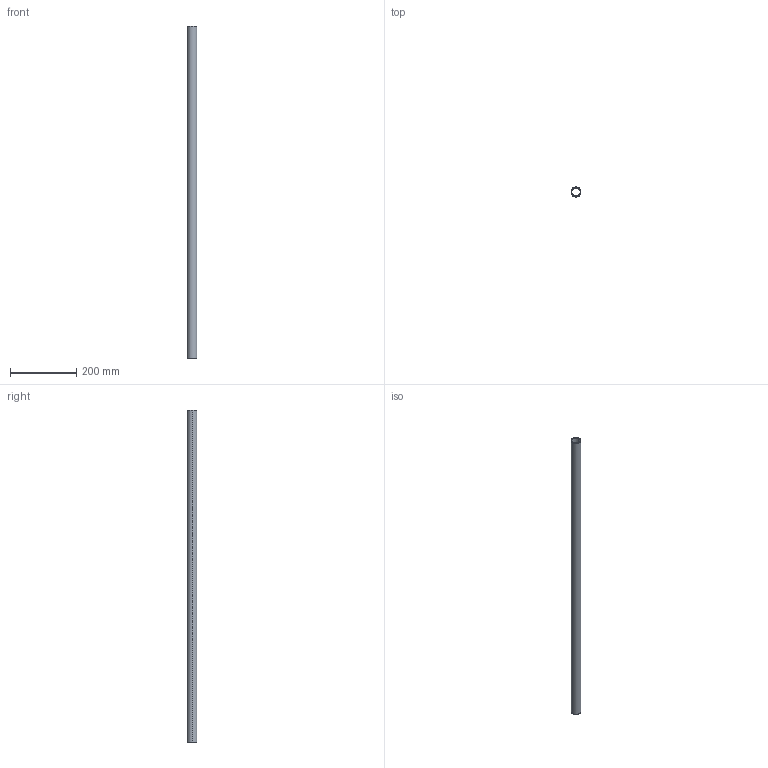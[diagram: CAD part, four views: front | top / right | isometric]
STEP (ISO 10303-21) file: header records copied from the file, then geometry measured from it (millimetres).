
FILE_DESCRIPTION (( 'STEP AP214' ), '1' );
FILE_NAME ('PAT30-1000.STEP', '2022-12-13T00:46:52', ( '' ), ( '' ), 'SwSTEP 2.0', 'SolidWorks 2018', '' );
FILE_SCHEMA (( 'AUTOMOTIVE_DESIGN' ));
Length unit declared in the file: millimetre
Products named in the file (1): PAT30-1000
Bounding box: 30 x 30 x 1000 mm (x, y, z)
Volume: 215984.5 mm3; surface area: 173219.6 mm2
Topology: 1 solids, 1 shells, 6 faces, 12 edges, 8 vertices
Faces by surface type: cylinder 4, plane 2
Entity records: 202 total; most frequent: DIRECTION 34, CARTESIAN_POINT 27, ORIENTED_EDGE 24, AXIS2_PLACEMENT_3D 15, EDGE_CURVE 12, CIRCLE 8, EDGE_LOOP 8, VERTEX_POINT 8
